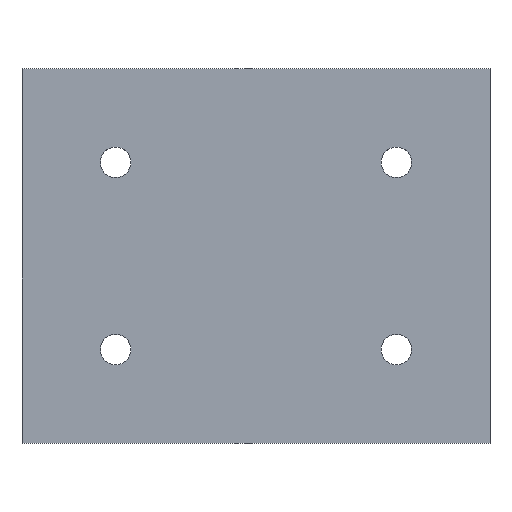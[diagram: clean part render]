
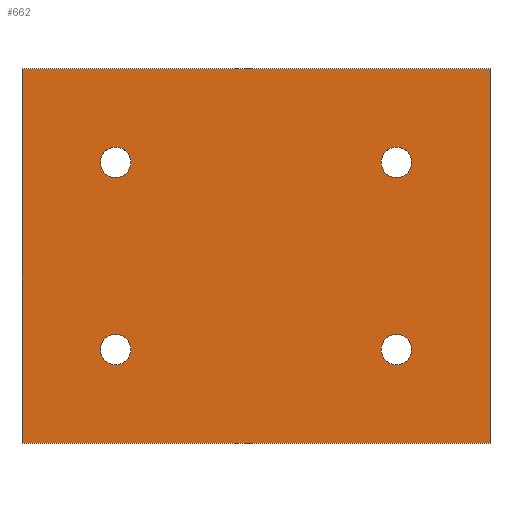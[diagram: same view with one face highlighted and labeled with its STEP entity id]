
A CAD part, top view. The second image highlights one B-rep face of the part: STEP entity #662.
In plain terms, the highlighted planar face has unit normal (0, 0, 1).
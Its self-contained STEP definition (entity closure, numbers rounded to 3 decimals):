
#24 = VERTEX_POINT('',#25);
#25 = CARTESIAN_POINT('',(-100.,-80.,12.));
#32 = PLANE('',#33);
#33 = AXIS2_PLACEMENT_3D('',#34,#35,#36);
#34 = CARTESIAN_POINT('',(-100.,-80.,0.));
#35 = DIRECTION('',(0.,1.,0.));
#36 = DIRECTION('',(1.,0.,0.));
#44 = PLANE('',#45);
#45 = AXIS2_PLACEMENT_3D('',#46,#47,#48);
#46 = CARTESIAN_POINT('',(-100.,80.,0.));
#47 = DIRECTION('',(1.,0.,-0.));
#48 = DIRECTION('',(0.,-1.,0.));
#56 = EDGE_CURVE('',#24,#57,#59,.T.);
#57 = VERTEX_POINT('',#58);
#58 = CARTESIAN_POINT('',(100.,-80.,12.));
#59 = SURFACE_CURVE('',#60,(#64,#71),.PCURVE_S1.);
#60 = LINE('',#61,#62);
#61 = CARTESIAN_POINT('',(-100.,-80.,12.));
#62 = VECTOR('',#63,1.);
#63 = DIRECTION('',(1.,0.,0.));
#64 = PCURVE('',#32,#65);
#65 = DEFINITIONAL_REPRESENTATION('',(#66),#70);
#66 = LINE('',#67,#68);
#67 = CARTESIAN_POINT('',(0.,-12.));
#68 = VECTOR('',#69,1.);
#69 = DIRECTION('',(1.,0.));
#70 = ( GEOMETRIC_REPRESENTATION_CONTEXT(2) 
PARAMETRIC_REPRESENTATION_CONTEXT() REPRESENTATION_CONTEXT('2D SPACE',''
  ) );
#71 = PCURVE('',#72,#77);
#72 = PLANE('',#73);
#73 = AXIS2_PLACEMENT_3D('',#74,#75,#76);
#74 = CARTESIAN_POINT('',(0.,0.,12.));
#75 = DIRECTION('',(0.,0.,1.));
#76 = DIRECTION('',(1.,0.,-0.));
#77 = DEFINITIONAL_REPRESENTATION('',(#78),#82);
#78 = LINE('',#79,#80);
#79 = CARTESIAN_POINT('',(-100.,-80.));
#80 = VECTOR('',#81,1.);
#81 = DIRECTION('',(1.,0.));
#82 = ( GEOMETRIC_REPRESENTATION_CONTEXT(2) 
PARAMETRIC_REPRESENTATION_CONTEXT() REPRESENTATION_CONTEXT('2D SPACE',''
  ) );
#100 = PLANE('',#101);
#101 = AXIS2_PLACEMENT_3D('',#102,#103,#104);
#102 = CARTESIAN_POINT('',(100.,-80.,0.));
#103 = DIRECTION('',(-1.,0.,0.));
#104 = DIRECTION('',(0.,1.,0.));
#142 = EDGE_CURVE('',#57,#143,#145,.T.);
#143 = VERTEX_POINT('',#144);
#144 = CARTESIAN_POINT('',(100.,80.,12.));
#145 = SURFACE_CURVE('',#146,(#150,#157),.PCURVE_S1.);
#146 = LINE('',#147,#148);
#147 = CARTESIAN_POINT('',(100.,-80.,12.));
#148 = VECTOR('',#149,1.);
#149 = DIRECTION('',(0.,1.,0.));
#150 = PCURVE('',#100,#151);
#151 = DEFINITIONAL_REPRESENTATION('',(#152),#156);
#152 = LINE('',#153,#154);
#153 = CARTESIAN_POINT('',(0.,-12.));
#154 = VECTOR('',#155,1.);
#155 = DIRECTION('',(1.,0.));
#156 = ( GEOMETRIC_REPRESENTATION_CONTEXT(2) 
PARAMETRIC_REPRESENTATION_CONTEXT() REPRESENTATION_CONTEXT('2D SPACE',''
  ) );
#157 = PCURVE('',#72,#158);
#158 = DEFINITIONAL_REPRESENTATION('',(#159),#163);
#159 = LINE('',#160,#161);
#160 = CARTESIAN_POINT('',(100.,-80.));
#161 = VECTOR('',#162,1.);
#162 = DIRECTION('',(0.,1.));
#163 = ( GEOMETRIC_REPRESENTATION_CONTEXT(2) 
PARAMETRIC_REPRESENTATION_CONTEXT() REPRESENTATION_CONTEXT('2D SPACE',''
  ) );
#181 = PLANE('',#182);
#182 = AXIS2_PLACEMENT_3D('',#183,#184,#185);
#183 = CARTESIAN_POINT('',(100.,80.,0.));
#184 = DIRECTION('',(0.,-1.,0.));
#185 = DIRECTION('',(-1.,0.,0.));
#218 = EDGE_CURVE('',#143,#219,#221,.T.);
#219 = VERTEX_POINT('',#220);
#220 = CARTESIAN_POINT('',(-100.,80.,12.));
#221 = SURFACE_CURVE('',#222,(#226,#233),.PCURVE_S1.);
#222 = LINE('',#223,#224);
#223 = CARTESIAN_POINT('',(100.,80.,12.));
#224 = VECTOR('',#225,1.);
#225 = DIRECTION('',(-1.,0.,0.));
#226 = PCURVE('',#181,#227);
#227 = DEFINITIONAL_REPRESENTATION('',(#228),#232);
#228 = LINE('',#229,#230);
#229 = CARTESIAN_POINT('',(0.,-12.));
#230 = VECTOR('',#231,1.);
#231 = DIRECTION('',(1.,0.));
#232 = ( GEOMETRIC_REPRESENTATION_CONTEXT(2) 
PARAMETRIC_REPRESENTATION_CONTEXT() REPRESENTATION_CONTEXT('2D SPACE',''
  ) );
#233 = PCURVE('',#72,#234);
#234 = DEFINITIONAL_REPRESENTATION('',(#235),#239);
#235 = LINE('',#236,#237);
#236 = CARTESIAN_POINT('',(100.,80.));
#237 = VECTOR('',#238,1.);
#238 = DIRECTION('',(-1.,0.));
#239 = ( GEOMETRIC_REPRESENTATION_CONTEXT(2) 
PARAMETRIC_REPRESENTATION_CONTEXT() REPRESENTATION_CONTEXT('2D SPACE',''
  ) );
#289 = EDGE_CURVE('',#219,#24,#290,.T.);
#290 = SURFACE_CURVE('',#291,(#295,#302),.PCURVE_S1.);
#291 = LINE('',#292,#293);
#292 = CARTESIAN_POINT('',(-100.,80.,12.));
#293 = VECTOR('',#294,1.);
#294 = DIRECTION('',(0.,-1.,0.));
#295 = PCURVE('',#44,#296);
#296 = DEFINITIONAL_REPRESENTATION('',(#297),#301);
#297 = LINE('',#298,#299);
#298 = CARTESIAN_POINT('',(0.,-12.));
#299 = VECTOR('',#300,1.);
#300 = DIRECTION('',(1.,0.));
#301 = ( GEOMETRIC_REPRESENTATION_CONTEXT(2) 
PARAMETRIC_REPRESENTATION_CONTEXT() REPRESENTATION_CONTEXT('2D SPACE',''
  ) );
#302 = PCURVE('',#72,#303);
#303 = DEFINITIONAL_REPRESENTATION('',(#304),#308);
#304 = LINE('',#305,#306);
#305 = CARTESIAN_POINT('',(-100.,80.));
#306 = VECTOR('',#307,1.);
#307 = DIRECTION('',(0.,-1.));
#308 = ( GEOMETRIC_REPRESENTATION_CONTEXT(2) 
PARAMETRIC_REPRESENTATION_CONTEXT() REPRESENTATION_CONTEXT('2D SPACE',''
  ) );
#338 = VERTEX_POINT('',#339);
#339 = CARTESIAN_POINT('',(-53.5,-40.,12.));
#346 = CYLINDRICAL_SURFACE('',#347,6.5);
#347 = AXIS2_PLACEMENT_3D('',#348,#349,#350);
#348 = CARTESIAN_POINT('',(-60.,-40.,0.));
#349 = DIRECTION('',(-0.,-0.,-1.));
#350 = DIRECTION('',(1.,0.,-0.));
#365 = EDGE_CURVE('',#338,#338,#366,.T.);
#366 = SURFACE_CURVE('',#367,(#372,#379),.PCURVE_S1.);
#367 = CIRCLE('',#368,6.5);
#368 = AXIS2_PLACEMENT_3D('',#369,#370,#371);
#369 = CARTESIAN_POINT('',(-60.,-40.,12.));
#370 = DIRECTION('',(0.,0.,1.));
#371 = DIRECTION('',(1.,0.,-0.));
#372 = PCURVE('',#346,#373);
#373 = DEFINITIONAL_REPRESENTATION('',(#374),#378);
#374 = LINE('',#375,#376);
#375 = CARTESIAN_POINT('',(-0.,-12.));
#376 = VECTOR('',#377,1.);
#377 = DIRECTION('',(-1.,0.));
#378 = ( GEOMETRIC_REPRESENTATION_CONTEXT(2) 
PARAMETRIC_REPRESENTATION_CONTEXT() REPRESENTATION_CONTEXT('2D SPACE',''
  ) );
#379 = PCURVE('',#72,#380);
#380 = DEFINITIONAL_REPRESENTATION('',(#381),#385);
#381 = CIRCLE('',#382,6.5);
#382 = AXIS2_PLACEMENT_2D('',#383,#384);
#383 = CARTESIAN_POINT('',(-60.,-40.));
#384 = DIRECTION('',(1.,0.));
#385 = ( GEOMETRIC_REPRESENTATION_CONTEXT(2) 
PARAMETRIC_REPRESENTATION_CONTEXT() REPRESENTATION_CONTEXT('2D SPACE',''
  ) );
#416 = VERTEX_POINT('',#417);
#417 = CARTESIAN_POINT('',(66.5,-40.,12.));
#424 = CYLINDRICAL_SURFACE('',#425,6.5);
#425 = AXIS2_PLACEMENT_3D('',#426,#427,#428);
#426 = CARTESIAN_POINT('',(60.,-40.,0.));
#427 = DIRECTION('',(-0.,-0.,-1.));
#428 = DIRECTION('',(1.,0.,-0.));
#443 = EDGE_CURVE('',#416,#416,#444,.T.);
#444 = SURFACE_CURVE('',#445,(#450,#457),.PCURVE_S1.);
#445 = CIRCLE('',#446,6.5);
#446 = AXIS2_PLACEMENT_3D('',#447,#448,#449);
#447 = CARTESIAN_POINT('',(60.,-40.,12.));
#448 = DIRECTION('',(0.,0.,1.));
#449 = DIRECTION('',(1.,0.,-0.));
#450 = PCURVE('',#424,#451);
#451 = DEFINITIONAL_REPRESENTATION('',(#452),#456);
#452 = LINE('',#453,#454);
#453 = CARTESIAN_POINT('',(-0.,-12.));
#454 = VECTOR('',#455,1.);
#455 = DIRECTION('',(-1.,0.));
#456 = ( GEOMETRIC_REPRESENTATION_CONTEXT(2) 
PARAMETRIC_REPRESENTATION_CONTEXT() REPRESENTATION_CONTEXT('2D SPACE',''
  ) );
#457 = PCURVE('',#72,#458);
#458 = DEFINITIONAL_REPRESENTATION('',(#459),#463);
#459 = CIRCLE('',#460,6.5);
#460 = AXIS2_PLACEMENT_2D('',#461,#462);
#461 = CARTESIAN_POINT('',(60.,-40.));
#462 = DIRECTION('',(1.,0.));
#463 = ( GEOMETRIC_REPRESENTATION_CONTEXT(2) 
PARAMETRIC_REPRESENTATION_CONTEXT() REPRESENTATION_CONTEXT('2D SPACE',''
  ) );
#494 = VERTEX_POINT('',#495);
#495 = CARTESIAN_POINT('',(66.5,40.,12.));
#502 = CYLINDRICAL_SURFACE('',#503,6.5);
#503 = AXIS2_PLACEMENT_3D('',#504,#505,#506);
#504 = CARTESIAN_POINT('',(60.,40.,0.));
#505 = DIRECTION('',(-0.,-0.,-1.));
#506 = DIRECTION('',(1.,0.,-0.));
#521 = EDGE_CURVE('',#494,#494,#522,.T.);
#522 = SURFACE_CURVE('',#523,(#528,#535),.PCURVE_S1.);
#523 = CIRCLE('',#524,6.5);
#524 = AXIS2_PLACEMENT_3D('',#525,#526,#527);
#525 = CARTESIAN_POINT('',(60.,40.,12.));
#526 = DIRECTION('',(0.,0.,1.));
#527 = DIRECTION('',(1.,0.,-0.));
#528 = PCURVE('',#502,#529);
#529 = DEFINITIONAL_REPRESENTATION('',(#530),#534);
#530 = LINE('',#531,#532);
#531 = CARTESIAN_POINT('',(-0.,-12.));
#532 = VECTOR('',#533,1.);
#533 = DIRECTION('',(-1.,0.));
#534 = ( GEOMETRIC_REPRESENTATION_CONTEXT(2) 
PARAMETRIC_REPRESENTATION_CONTEXT() REPRESENTATION_CONTEXT('2D SPACE',''
  ) );
#535 = PCURVE('',#72,#536);
#536 = DEFINITIONAL_REPRESENTATION('',(#537),#541);
#537 = CIRCLE('',#538,6.5);
#538 = AXIS2_PLACEMENT_2D('',#539,#540);
#539 = CARTESIAN_POINT('',(60.,40.));
#540 = DIRECTION('',(1.,0.));
#541 = ( GEOMETRIC_REPRESENTATION_CONTEXT(2) 
PARAMETRIC_REPRESENTATION_CONTEXT() REPRESENTATION_CONTEXT('2D SPACE',''
  ) );
#572 = VERTEX_POINT('',#573);
#573 = CARTESIAN_POINT('',(-53.5,40.,12.));
#580 = CYLINDRICAL_SURFACE('',#581,6.5);
#581 = AXIS2_PLACEMENT_3D('',#582,#583,#584);
#582 = CARTESIAN_POINT('',(-60.,40.,0.));
#583 = DIRECTION('',(-0.,-0.,-1.));
#584 = DIRECTION('',(1.,0.,-0.));
#599 = EDGE_CURVE('',#572,#572,#600,.T.);
#600 = SURFACE_CURVE('',#601,(#606,#613),.PCURVE_S1.);
#601 = CIRCLE('',#602,6.5);
#602 = AXIS2_PLACEMENT_3D('',#603,#604,#605);
#603 = CARTESIAN_POINT('',(-60.,40.,12.));
#604 = DIRECTION('',(0.,0.,1.));
#605 = DIRECTION('',(1.,0.,-0.));
#606 = PCURVE('',#580,#607);
#607 = DEFINITIONAL_REPRESENTATION('',(#608),#612);
#608 = LINE('',#609,#610);
#609 = CARTESIAN_POINT('',(-0.,-12.));
#610 = VECTOR('',#611,1.);
#611 = DIRECTION('',(-1.,0.));
#612 = ( GEOMETRIC_REPRESENTATION_CONTEXT(2) 
PARAMETRIC_REPRESENTATION_CONTEXT() REPRESENTATION_CONTEXT('2D SPACE',''
  ) );
#613 = PCURVE('',#72,#614);
#614 = DEFINITIONAL_REPRESENTATION('',(#615),#619);
#615 = CIRCLE('',#616,6.5);
#616 = AXIS2_PLACEMENT_2D('',#617,#618);
#617 = CARTESIAN_POINT('',(-60.,40.));
#618 = DIRECTION('',(1.,0.));
#619 = ( GEOMETRIC_REPRESENTATION_CONTEXT(2) 
PARAMETRIC_REPRESENTATION_CONTEXT() REPRESENTATION_CONTEXT('2D SPACE',''
  ) );
#662 = ADVANCED_FACE('',(#663,#669,#672,#675,#678),#72,.T.);
#663 = FACE_BOUND('',#664,.T.);
#664 = EDGE_LOOP('',(#665,#666,#667,#668));
#665 = ORIENTED_EDGE('',*,*,#56,.T.);
#666 = ORIENTED_EDGE('',*,*,#142,.T.);
#667 = ORIENTED_EDGE('',*,*,#218,.T.);
#668 = ORIENTED_EDGE('',*,*,#289,.T.);
#669 = FACE_BOUND('',#670,.F.);
#670 = EDGE_LOOP('',(#671));
#671 = ORIENTED_EDGE('',*,*,#365,.T.);
#672 = FACE_BOUND('',#673,.F.);
#673 = EDGE_LOOP('',(#674));
#674 = ORIENTED_EDGE('',*,*,#443,.T.);
#675 = FACE_BOUND('',#676,.F.);
#676 = EDGE_LOOP('',(#677));
#677 = ORIENTED_EDGE('',*,*,#521,.T.);
#678 = FACE_BOUND('',#679,.F.);
#679 = EDGE_LOOP('',(#680));
#680 = ORIENTED_EDGE('',*,*,#599,.T.);
